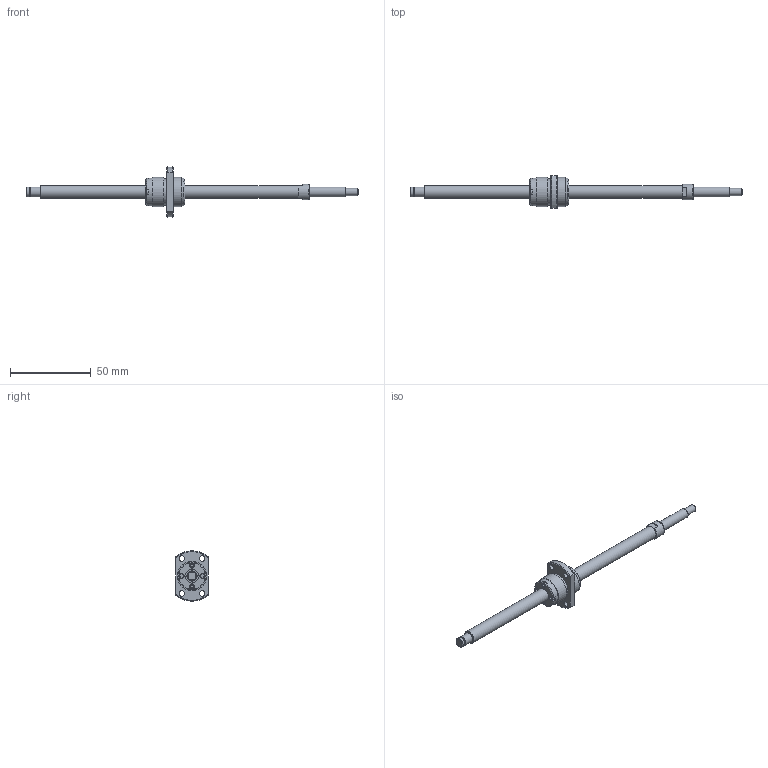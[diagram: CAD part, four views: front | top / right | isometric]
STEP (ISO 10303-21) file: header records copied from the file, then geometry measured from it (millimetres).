
FILE_DESCRIPTION(/* description */ ('STEP AP203'),/* implementation_level */ '2;1');
FILE_NAME(/* name */ 'BNK0810-3GT+205LC5Y(89)',/* time_stamp */ '2024-07-01T08:50:33+02:00',/* author */ ('License CC BY-ND 4.0'),/* organization */ ('CADENAS'),/* preprocessor_version */ 'ST-DEVELOPER v19.3',/* originating_system */ 'PARTsolutions',/* authorisation */ ' ');
FILE_SCHEMA (('CONFIG_CONTROL_DESIGN'));
Length unit declared in the file: millimetre
Products named in the file (3): BNK0810-3GT+205LC5Y(89); BNK 0810-3GT+205LC5Y Shaft; BNK 0810-3GT+205LC5Y Nut
Assembly tree (2 placements, depth 2):
  BNK0810-3GT+205LC5Y(89)
    BNK 0810-3GT+205LC5Y Shaft
    BNK 0810-3GT+205LC5Y Nut
Bounding box: 205 x 20 x 30.91 mm (x, y, z)
Volume: 15191.1 mm3; surface area: 8393.2 mm2
Topology: 2 solids, 2 shells, 112 faces, 256 edges, 166 vertices
Faces by surface type: plane 66, cylinder 27, cone 13, torus 6
Full cylindrical faces by diameter (mm): 3 x4, 3.4 x4, 4.5 x1, 5.7 x1, 6 x3, 8 x2, 9.5 x1, 16.2 x1, 17 x2, 18 x2
Entity records: 3085 total; most frequent: CARTESIAN_POINT 549, DIRECTION 520, ORIENTED_EDGE 444, EDGE_CURVE 222, AXIS2_PLACEMENT_3D 199, EDGE_LOOP 172, FACE_BOUND 172, VERTEX_POINT 164
